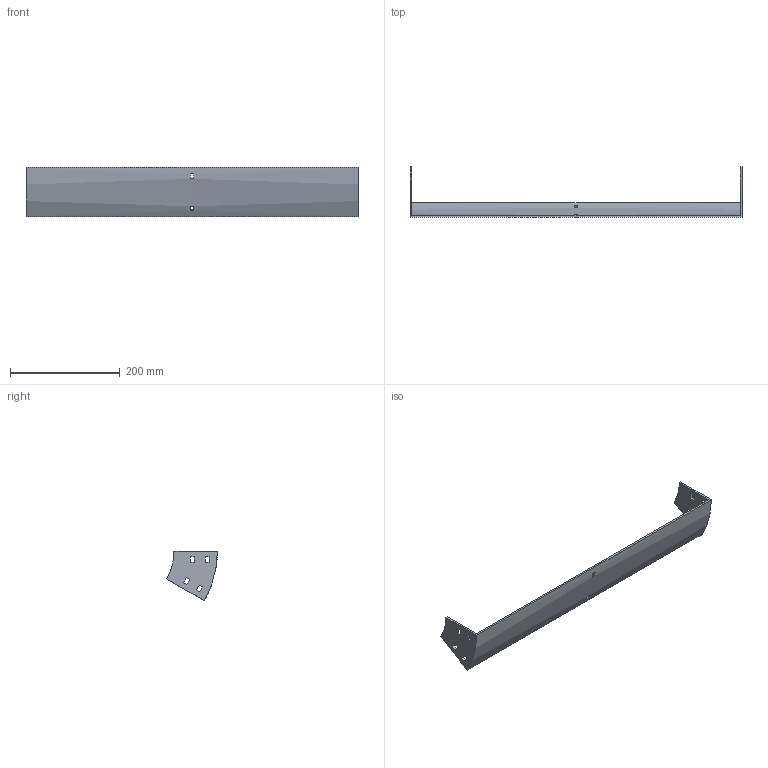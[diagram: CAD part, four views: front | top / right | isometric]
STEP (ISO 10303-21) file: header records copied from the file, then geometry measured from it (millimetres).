
FILE_DESCRIPTION (( 'STEP AP214' ), '1' );
FILE_NAME ('32B1C600.step', '2025-02-21T09:44:59', ( '' ), ( '' ), 'SwSTEP 2.0', 'SolidWorks 2023', '' );
FILE_SCHEMA (( 'AUTOMOTIVE_DESIGN' ));
Length unit declared in the file: millimetre
Products named in the file (1): 32B1C600
Bounding box: 604 x 92.4 x 89.5 mm (x, y, z)
Volume: 231943 mm3; surface area: 139366.8 mm2
Topology: 1 solids, 1 shells, 50 faces, 144 edges, 96 vertices
Faces by surface type: plane 46, cylinder 4
Entity records: 1687 total; most frequent: CARTESIAN_POINT 291, ORIENTED_EDGE 288, DIRECTION 262, EDGE_CURVE 144, VECTOR 128, LINE 128, VERTEX_POINT 96, EDGE_LOOP 70
